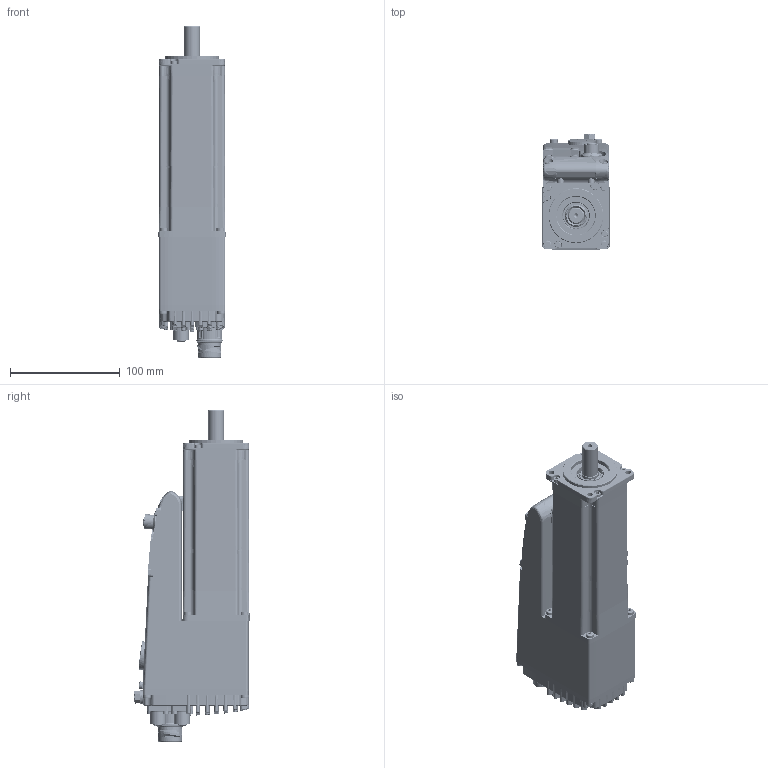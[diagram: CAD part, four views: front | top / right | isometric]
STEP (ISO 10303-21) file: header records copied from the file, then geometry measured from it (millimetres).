
FILE_DESCRIPTION(/* description */ ('Unknown'),/* implementation_level */ '2;1');
FILE_NAME(/* name */ 'DUET60 1,3 A5 1 E 3 (Q0C008)',/* time_stamp */ '2020-11-04T15:36:49+01:00',/* author */ ('Unknown'),/* organization */ ('Unknown'),/* preprocessor_version */ 'ST-DEVELOPER v16.7',/* originating_system */ 'DEX',/* authorisation */ $);
FILE_SCHEMA (('AUTOMOTIVE_DESIGN {1 0 10303 214 3 1 1}'));
Products named in the file (58): DUET60 1,3 A5 1 E 3 (Q0C008); 003251021030; 005123000690; 005123000690_0; 005123000690_1; 005123000690_2; 005123000690_3; 005123000690_4; 005123000690_5; 005123000690_6; 005755000060; 005751000100; 005123000100; 005123000100_0; 005123000100_1; 005123000100_2; 005123000100_3; 005123000100_4; 005123000100_5; 005911000198; 003108002506; 005911000182; 005008000510; 005008000740-oa0; 005008000740-oa1; 005007000200; 005911000200; 003155002056; 005008000744-oa2; 007803003640; 007055000370; 005113000100; 005711000954; 005911003643; MD031601.1.0; 005911000495; 005119001310; 005119001310_0; N01A66; 003120003045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
Assembly tree (98 placements, depth 4):
  DUET60 1,3 A5 1 E 3 (Q0C008)
    003251021030
    005123000690
    005123000690_0
    005123000690_1
    005123000690_2
    005123000690_3
    005123000690_4
    005123000690_5
    005123000690_6
    005755000060
    005751000100
    005123000100
    005123000100_0
    005123000100_1
    005123000100_2
    005123000100_3
    005123000100_4
    005123000100_5
    005911000198  x4
    003108002506
    005911000182
    005008000510
    005008000740-oa0
    005008000740-oa1
    005007000200
    005911000200  x4
    003155002056
    005008000744-oa2
    007803003640  x4
    007055000370  x4
    005113000100
    005711000954
    005911003643
    MD031601.1.0
    005911000495  x4
    005119001310
    005119001310_0
    N01A66
    003120003045
    052400000001
      LC431503.0.0
        J_4302729  x2
        J_7601000000
        V_VTCTX3X10(8.8)  x11
        J_7084943121
        MD031604.0.0
        V_RP6
      MD031607.0.0
      MD031608.0.0
      V_VTCTX40X12A  x12
      V_VTCTXK30X8  x5
      MD031609.0.0
      V_V027400610
      169692
      MD081003.2.0
      MD141520.0.0
      CONEC-43-01063
Bounding box: 61.32 x 105.22 x 302.8 mm (x, y, z)
Volume: 450921.1 mm3; surface area: 287169.2 mm2
Topology: 97 solids, 98 shells, 4766 faces, 11908 edges, 7551 vertices
Faces by surface type: plane 2065, cylinder 1237, bspline 564, cone 425, torus 396, sphere 79
Full cylindrical faces by diameter (mm): 0.8 x8, 0.9 x8, 1.1 x8, 1.2 x4, 1.3 x8, 1.4 x8, 1.5 x8, 1.7 x2, 2.2 x5, 2.4 x15, 2.459 x15, 2.5 x25, 2.9 x4, 3 x38, 3.2 x26, 3.242 x1, 3.3 x1, 3.4 x8, 3.5 x18, 4 x14, 4.134 x1, 4.2 x2, 4.5 x6, 5 x7, 5.5 x31, 5.6 x5, 5.65 x4, 6 x22, 6.4 x1, 7 x12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
Entity records: 159183 total; most frequent: CARTESIAN_POINT 48428, ORIENTED_EDGE 18458, DIRECTION 18176, EDGE_CURVE 9229, AXIS2_PLACEMENT_3D 7058, VERTEX_POINT 6202, FACE_BOUND 5089, EDGE_LOOP 5035
